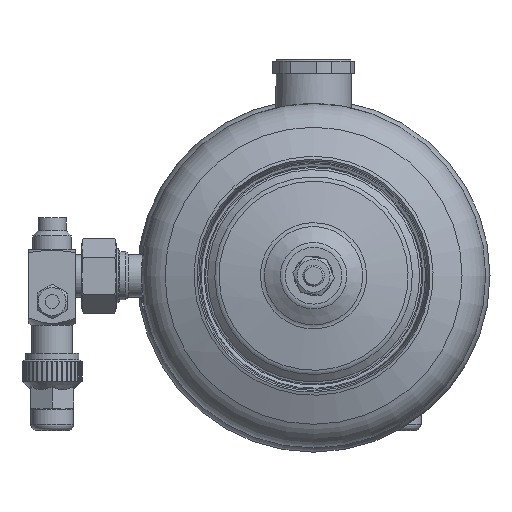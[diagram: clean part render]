
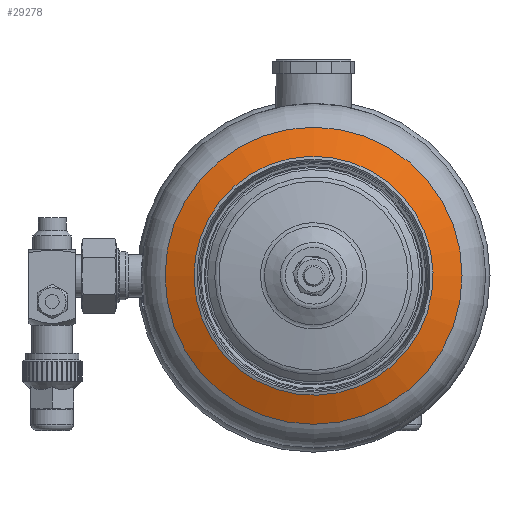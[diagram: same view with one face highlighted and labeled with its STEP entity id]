
A CAD part, front view. The second image highlights one B-rep face of the part: STEP entity #29278.
In plain terms, the highlighted spherical face has radius 163 mm.
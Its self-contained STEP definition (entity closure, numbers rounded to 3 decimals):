
#772=SPHERICAL_SURFACE('',#31544,163.);
#6000=FACE_BOUND('',#9444,.T.);
#7549=FACE_OUTER_BOUND('',#9443,.T.);
#9443=EDGE_LOOP('',(#24223));
#9444=EDGE_LOOP('',(#24224));
#10259=CIRCLE('',#30000,54.859);
#10702=CIRCLE('',#31543,69.049);
#11312=VERTEX_POINT('',#40744);
#13177=VERTEX_POINT('',#55786);
#14265=EDGE_CURVE('',#11312,#11312,#10259,.T.);
#17045=EDGE_CURVE('',#13177,#13177,#10702,.T.);
#24223=ORIENTED_EDGE('',*,*,#17045,.T.);
#24224=ORIENTED_EDGE('',*,*,#14265,.T.);
#29278=ADVANCED_FACE('',(#7549,#6000),#772,.T.);
#30000=AXIS2_PLACEMENT_3D('',#40745,#32938,#32939);
#31543=AXIS2_PLACEMENT_3D('',#55787,#37310,#37311);
#31544=AXIS2_PLACEMENT_3D('',#55788,#37312,#37313);
#32938=DIRECTION('center_axis',(0.,1.,0.));
#32939=DIRECTION('ref_axis',(0.,0.,-1.));
#37310=DIRECTION('center_axis',(0.,-1.,0.));
#37311=DIRECTION('ref_axis',(-1.,0.,0.));
#37312=DIRECTION('center_axis',(0.,0.,
-1.));
#37313=DIRECTION('ref_axis',(1.,0.,0.));
#40744=CARTESIAN_POINT('',(0.,-167.491,-54.859));
#40745=CARTESIAN_POINT('Origin',(0.,-167.491,0.));
#55786=CARTESIAN_POINT('',(-69.049,-161.653,0.));
#55787=CARTESIAN_POINT('Origin',(0.,-161.653,
0.));
#55788=CARTESIAN_POINT('Origin',(0.,-14.,
0.));
